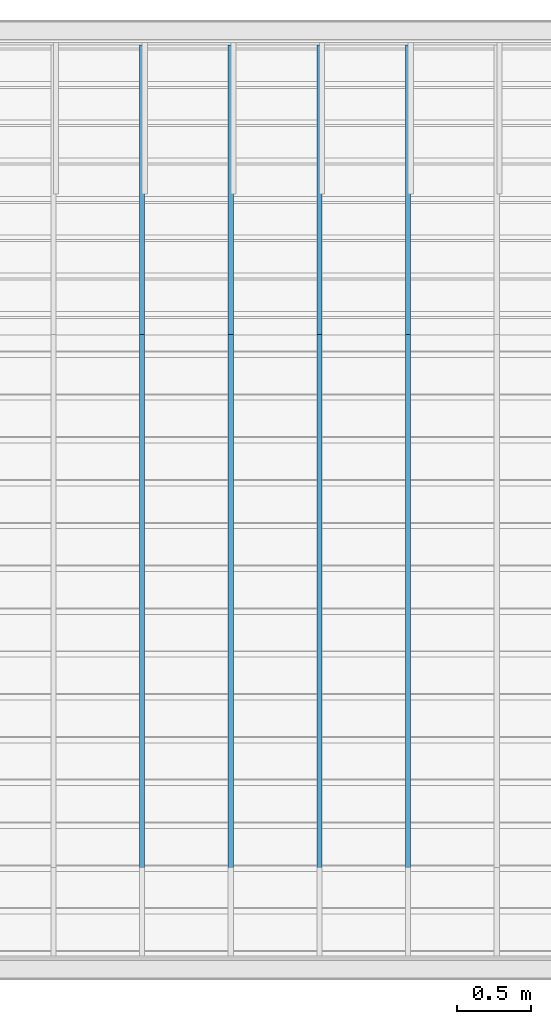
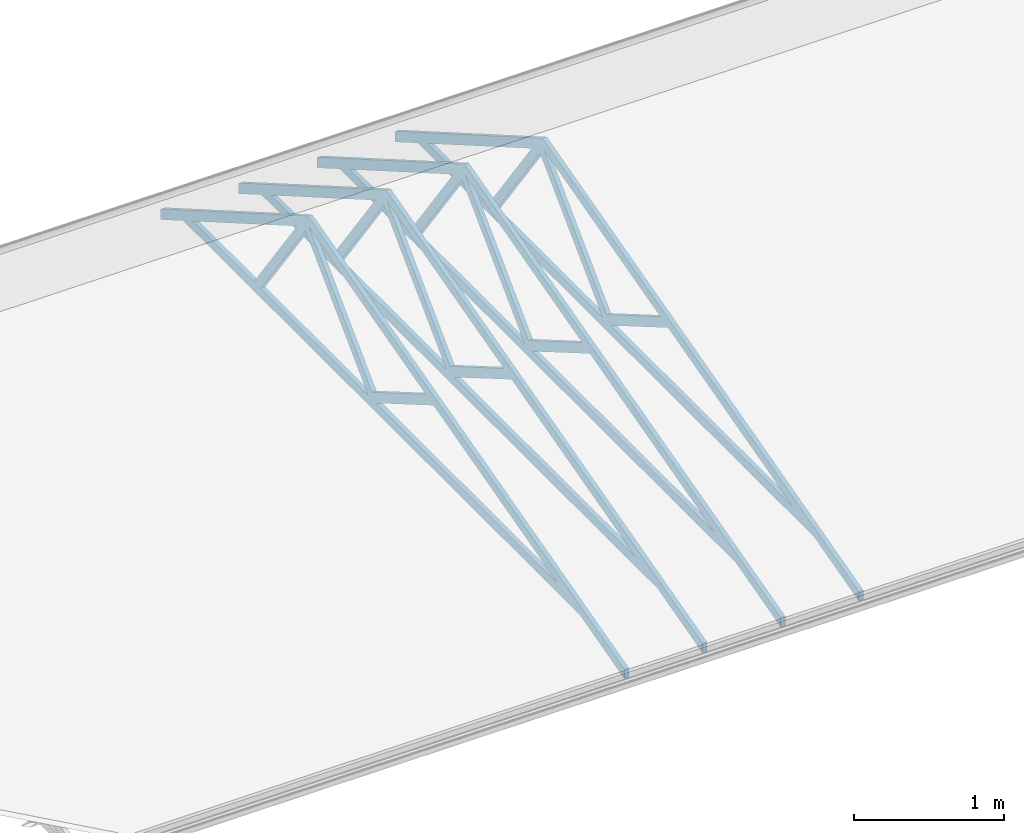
# One storey, part 6 of 12: 4 slabs.
"""IFC2X3 building model written with IfcOpenShell, lengths in millimetres."""

from ifc_helpers import new_model, entity, si_unit, converted_unit, money_unit, direction, frame, origin_with_axes, place, context, subcontext, project, spatial, faceted_brep, material, type_object, element, save


model = new_model("IFC2X3")

# Units and contexts
model_context = context("Model", 3, precision=1e-05, world=origin_with_axes(), true_north=direction((0.0, 1.0)))
body_context = subcontext(model_context, "Body", "Model", "MODEL_VIEW")
ifc_project = project(units=[si_unit("LENGTHUNIT", "METRE", prefix="MILLI"), si_unit("AREAUNIT", "SQUARE_METRE"), si_unit("VOLUMEUNIT", "CUBIC_METRE"), converted_unit("PLANEANGLEUNIT", "DEGREE", entity("IfcPlaneAngleMeasure", 0.0174532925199), si_unit("PLANEANGLEUNIT", "RADIAN"), dimensions=[0, 0, 0, 0, 0, 0, 0]), si_unit("SOLIDANGLEUNIT", "STERADIAN"), money_unit("AUD"), si_unit("TIMEUNIT", "SECOND"), si_unit("MASSUNIT", "GRAM"), si_unit("THERMODYNAMICTEMPERATUREUNIT", "DEGREE_CELSIUS"), si_unit("LUMINOUSINTENSITYUNIT", "LUMEN")], contexts=[model_context])

# Site, building, storey
site_placement = place(None, origin_with_axes())
site = spatial("IfcSite", under=ifc_project, at=site_placement, Name="Lot 1. East Hills", CompositionType="ELEMENT")
building_placement = place(site_placement, origin_with_axes())
building = spatial("IfcBuilding", under=site, at=building_placement, Name="Proposed Units 7 & 8", CompositionType="ELEMENT")
storey_placement = place(building_placement, frame((0.0, 0.0, 8395.0), z_axis=(0.0, 0.0, 1.0), x_axis=(1.0, 0.0, 0.0)))
storey = spatial("IfcBuildingStorey", under=building, at=storey_placement, Name="Roof", CompositionType="ELEMENT", Elevation=8395.0)

# Slabs
ifc_material = material(Name="50 %")
slab_type = type_object("IfcSlabType", Name="Roof Trust large", PredefinedType="NOTDEFINED")
slab_1_placement = place(storey_placement, frame((10955.0, -3.11548540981, 0.0), z_axis=(0.0, 0.0, 1.0), x_axis=(-1.0, 0.0, 0.0)))
element("IfcSlab", 1, at=slab_1_placement, inside=storey, type_object=slab_type, material=ifc_material, Name="TRUST_09 - Roof Trust large - object -", PredefinedType="ROOF", context=body_context, shape_type="Brep", body=[
    faceted_brep([(0.0, 600.020035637, -160.773638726), (0.0, 600.020035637, -160.673638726), (35.0, 600.020035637, -160.673638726), (35.0, 600.020035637, -160.773638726), (0.0, 599.923443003, -160.747757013), (0.0, 0.0966282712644, -0.0259204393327), (0.0, 3.56373446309e-05, -3.87262417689e-05), (0.0, -0.0999643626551, -3.87262417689e-05), (0.0, -5264.89996436, -3.87262399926e-05), (0.0, -5264.99996436, -3.87262399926e-05), (0.0, -5265.08656691, -0.050038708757), (0.0, -5564.91336181, -173.155038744), (0.0, -5564.99996436, -173.205038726), (0.0, -5564.99996436, -173.105038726), (0.0, -5564.99996436, -86.7025387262), (0.0, -5564.99996436, -86.6025387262), (0.0, -5564.91336181, -86.552538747), (0.0, -3606.74656692, 1043.99496129), (0.0, -3606.65996436, 1044.04496127), (0.0, -3606.56337176, 1044.01907945), (0.0, 599.923443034, -83.102056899), (0.0, 600.020035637, -83.1279387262), (0.0, 600.020035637, -83.2279387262), (0.0, -279.899964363, 74.9999612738), (0.0, -279.996556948, 75.0258431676), (0.0, -1937.88337178, 519.25507938), (0.0, -1937.97996436, 519.280961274), (0.0, -1938.06635104, 519.230589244), (0.0, -2699.82357768, 75.0503333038), (0.0, -2699.90996436, 74.9999612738), (0.0, -2699.80996436, 74.9999612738), (0.0, -279.999964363, 74.9999612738), (0.0, -2039.93996436, 546.601961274), (0.0, -2040.03655692, 546.627843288), (0.0, -3595.96337181, 963.539079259), (0.0, -3596.05996436, 963.564961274), (0.0, -3595.98895391, 963.494551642), (0.0, -2755.09097481, 129.711370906), (0.0, -2755.01996436, 129.640961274), (0.0, -2754.93357759, 129.691333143), (0.0, -2040.02635114, 546.551589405), (0.0, -2806.42996436, 74.9999612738), (0.0, -2806.50097476, 75.0703709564), (0.0, -3640.32895396, 901.844551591), (0.0, -3640.39996436, 901.914961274), (0.0, -3640.45835547, 901.833779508), (0.0, -4235.11157326, 75.0811430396), (0.0, -4235.16996436, 74.9999612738), (0.0, -4235.06996436, 74.9999612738), (0.0, -2806.52996436, 74.9999612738), (0.0, -3751.98996436, 873.534961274), (0.0, -3752.07656695, 873.48496135), (0.0, -5135.00936178, 75.0499611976), (0.0, -5135.09596436, 74.9999612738), (0.0, -5134.99596436, 74.9999612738), (0.0, -4326.44996436, 74.9999612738), (0.0, -4326.34996436, 74.9999612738), (0.0, -4326.29157308, 75.0811429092), (0.0, -3752.04835565, 873.453779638), (35.0, 600.020035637, -83.2279387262), (35.0, 600.020035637, -83.1279387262), (35.0, 599.923443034, -83.102056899), (35.0, -3606.56337176, 1044.01907945), (35.0, -3606.65996436, 1044.04496127), (35.0, -3606.74656692, 1043.99496129), (35.0, -5564.91336181, -86.552538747), (35.0, -5564.99996436, -86.6025387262), (35.0, -5564.99996436, -86.7025387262), (35.0, -5564.99996436, -173.105038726), (35.0, -5564.99996436, -173.205038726), (35.0, -5564.91336181, -173.155038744), (35.0, -5265.08656691, -0.050038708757), (35.0, -5264.99996436, -3.87262399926e-05), (35.0, -5264.89996436, -3.87262399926e-05), (35.0, -0.0999643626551, -3.87262417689e-05), (35.0, 3.56373446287e-05, -3.87262417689e-05), (35.0, 0.0966282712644, -0.0259204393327), (35.0, 599.923443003, -160.747757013), (35.0, -279.899964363, 74.9999612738), (35.0, -279.999964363, 74.9999612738), (35.0, -2699.80996436, 74.9999612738), (35.0, -2699.90996436, 74.9999612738), (35.0, -2699.82357768, 75.0503333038), (35.0, -1938.06635104, 519.230589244), (35.0, -1937.97996436, 519.280961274), (35.0, -1937.88337178, 519.25507938), (35.0, -279.996556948, 75.0258431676), (35.0, -2039.93996436, 546.601961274), (35.0, -2040.02635114, 546.551589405), (35.0, -2754.93357759, 129.691333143), (35.0, -2755.01996436, 129.640961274), (35.0, -2755.09097481, 129.711370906), (35.0, -3595.98895391, 963.494551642), (35.0, -3596.05996436, 963.564961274), (35.0, -3595.96337181, 963.539079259), (35.0, -2040.03655692, 546.627843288), (35.0, -2806.42996436, 74.9999612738), (35.0, -2806.52996436, 74.9999612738), (35.0, -4235.06996436, 74.9999612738), (35.0, -4235.16996436, 74.9999612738), (35.0, -4235.11157326, 75.0811430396), (35.0, -3640.45835547, 901.833779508), (35.0, -3640.39996436, 901.914961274), (35.0, -3640.32895396, 901.844551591), (35.0, -2806.50097476, 75.0703709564), (35.0, -3751.98996436, 873.534961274), (35.0, -3752.04835565, 873.453779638), (35.0, -4326.29157308, 75.0811429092), (35.0, -4326.34996436, 74.9999612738), (35.0, -4326.44996436, 74.9999612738), (35.0, -5134.99596436, 74.9999612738), (35.0, -5135.09596436, 74.9999612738), (35.0, -5135.00936178, 75.0499611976), (35.0, -3752.07656695, 873.48496135)], [[[0, 1, 2, 3]], [[0, 4, 5, 6, 7, 8, 9, 10, 11, 12, 13, 14, 15, 16, 17, 18, 19, 20, 21, 22, 1], [23, 24, 25, 26, 27, 28, 29, 30, 31], [32, 33, 34, 35, 36, 37, 38, 39, 40], [41, 42, 43, 44, 45, 46, 47, 48, 49], [50, 51, 52, 53, 54, 55, 56, 57, 58]], [[1, 22, 59, 2]], [[3, 2, 59, 60, 61, 62, 63, 64, 65, 66, 67, 68, 69, 70, 71, 72, 73, 74, 75, 76, 77], [78, 79, 80, 81, 82, 83, 84, 85, 86], [87, 88, 89, 90, 91, 92, 93, 94, 95], [96, 97, 98, 99, 100, 101, 102, 103, 104], [105, 106, 107, 108, 109, 110, 111, 112, 113]], [[4, 0, 3, 77]], [[5, 4, 77, 76]], [[6, 5, 76, 75]], [[7, 6, 75, 74]], [[8, 7, 74, 73]], [[9, 8, 73, 72]], [[10, 9, 72, 71]], [[11, 10, 71, 70]], [[12, 11, 70, 69]], [[13, 12, 69, 68]], [[14, 13, 68, 67]], [[15, 14, 67, 66]], [[16, 15, 66, 65]], [[17, 16, 65, 64]], [[18, 17, 64, 63]], [[19, 18, 63, 62]], [[20, 19, 62, 61]], [[21, 20, 61, 60]], [[22, 21, 60, 59]], [[24, 23, 78, 86]], [[25, 24, 86, 85]], [[26, 25, 85, 84]], [[27, 26, 84, 83]], [[28, 27, 83, 82]], [[29, 28, 82, 81]], [[30, 29, 81, 80]], [[31, 30, 80, 79]], [[23, 31, 79, 78]], [[33, 32, 87, 95]], [[34, 33, 95, 94]], [[35, 34, 94, 93]], [[36, 35, 93, 92]], [[37, 36, 92, 91]], [[38, 37, 91, 90]], [[39, 38, 90, 89]], [[40, 39, 89, 88]], [[32, 40, 88, 87]], [[42, 41, 96, 104]], [[43, 42, 104, 103]], [[44, 43, 103, 102]], [[45, 44, 102, 101]], [[46, 45, 101, 100]], [[47, 46, 100, 99]], [[48, 47, 99, 98]], [[49, 48, 98, 97]], [[41, 49, 97, 96]], [[51, 50, 105, 113]], [[52, 51, 113, 112]], [[53, 52, 112, 111]], [[54, 53, 111, 110]], [[55, 54, 110, 109]], [[56, 55, 109, 108]], [[57, 56, 108, 107]], [[58, 57, 107, 106]], [[50, 58, 106, 105]]]),
])
slab_2_placement = place(storey_placement, frame((10355.0, -3.11548540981, 0.0), z_axis=(0.0, 0.0, 1.0), x_axis=(-1.0, 0.0, 0.0)))
element("IfcSlab", 2, at=slab_2_placement, inside=storey, type_object=slab_type, material=ifc_material, Name="TRUST_10 - Roof Trust large - object -", PredefinedType="ROOF", context=body_context, shape_type="Brep", body=[
    faceted_brep([(0.0, 600.020035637, -160.773638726), (0.0, 600.020035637, -160.673638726), (35.0, 600.020035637, -160.673638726), (35.0, 600.020035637, -160.773638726), (0.0, 599.923443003, -160.747757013), (0.0, 0.0966282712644, -0.0259204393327), (0.0, 3.56373446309e-05, -3.87262417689e-05), (0.0, -0.0999643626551, -3.87262417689e-05), (0.0, -5264.89996436, -3.87262399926e-05), (0.0, -5264.99996436, -3.87262399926e-05), (0.0, -5265.08656691, -0.050038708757), (0.0, -5564.91336181, -173.155038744), (0.0, -5564.99996436, -173.205038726), (0.0, -5564.99996436, -173.105038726), (0.0, -5564.99996436, -86.7025387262), (0.0, -5564.99996436, -86.6025387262), (0.0, -5564.91336181, -86.552538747), (0.0, -3606.74656692, 1043.99496129), (0.0, -3606.65996436, 1044.04496127), (0.0, -3606.56337176, 1044.01907945), (0.0, 599.923443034, -83.102056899), (0.0, 600.020035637, -83.1279387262), (0.0, 600.020035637, -83.2279387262), (0.0, -279.899964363, 74.9999612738), (0.0, -279.996556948, 75.0258431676), (0.0, -1937.88337178, 519.25507938), (0.0, -1937.97996436, 519.280961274), (0.0, -1938.06635104, 519.230589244), (0.0, -2699.82357768, 75.0503333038), (0.0, -2699.90996436, 74.9999612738), (0.0, -2699.80996436, 74.9999612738), (0.0, -279.999964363, 74.9999612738), (0.0, -2039.93996436, 546.601961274), (0.0, -2040.03655692, 546.627843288), (0.0, -3595.96337181, 963.539079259), (0.0, -3596.05996436, 963.564961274), (0.0, -3595.98895391, 963.494551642), (0.0, -2755.09097481, 129.711370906), (0.0, -2755.01996436, 129.640961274), (0.0, -2754.93357759, 129.691333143), (0.0, -2040.02635114, 546.551589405), (0.0, -2806.42996436, 74.9999612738), (0.0, -2806.50097476, 75.0703709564), (0.0, -3640.32895396, 901.844551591), (0.0, -3640.39996436, 901.914961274), (0.0, -3640.45835547, 901.833779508), (0.0, -4235.11157326, 75.0811430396), (0.0, -4235.16996436, 74.9999612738), (0.0, -4235.06996436, 74.9999612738), (0.0, -2806.52996436, 74.9999612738), (0.0, -3751.98996436, 873.534961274), (0.0, -3752.07656695, 873.48496135), (0.0, -5135.00936178, 75.0499611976), (0.0, -5135.09596436, 74.9999612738), (0.0, -5134.99596436, 74.9999612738), (0.0, -4326.44996436, 74.9999612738), (0.0, -4326.34996436, 74.9999612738), (0.0, -4326.29157308, 75.0811429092), (0.0, -3752.04835565, 873.453779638), (35.0, 600.020035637, -83.2279387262), (35.0, 600.020035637, -83.1279387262), (35.0, 599.923443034, -83.102056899), (35.0, -3606.56337176, 1044.01907945), (35.0, -3606.65996436, 1044.04496127), (35.0, -3606.74656692, 1043.99496129), (35.0, -5564.91336181, -86.552538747), (35.0, -5564.99996436, -86.6025387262), (35.0, -5564.99996436, -86.7025387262), (35.0, -5564.99996436, -173.105038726), (35.0, -5564.99996436, -173.205038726), (35.0, -5564.91336181, -173.155038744), (35.0, -5265.08656691, -0.050038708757), (35.0, -5264.99996436, -3.87262399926e-05), (35.0, -5264.89996436, -3.87262399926e-05), (35.0, -0.0999643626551, -3.87262417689e-05), (35.0, 3.56373446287e-05, -3.87262417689e-05), (35.0, 0.0966282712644, -0.0259204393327), (35.0, 599.923443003, -160.747757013), (35.0, -279.899964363, 74.9999612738), (35.0, -279.999964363, 74.9999612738), (35.0, -2699.80996436, 74.9999612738), (35.0, -2699.90996436, 74.9999612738), (35.0, -2699.82357768, 75.0503333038), (35.0, -1938.06635104, 519.230589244), (35.0, -1937.97996436, 519.280961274), (35.0, -1937.88337178, 519.25507938), (35.0, -279.996556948, 75.0258431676), (35.0, -2039.93996436, 546.601961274), (35.0, -2040.02635114, 546.551589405), (35.0, -2754.93357759, 129.691333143), (35.0, -2755.01996436, 129.640961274), (35.0, -2755.09097481, 129.711370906), (35.0, -3595.98895391, 963.494551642), (35.0, -3596.05996436, 963.564961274), (35.0, -3595.96337181, 963.539079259), (35.0, -2040.03655692, 546.627843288), (35.0, -2806.42996436, 74.9999612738), (35.0, -2806.52996436, 74.9999612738), (35.0, -4235.06996436, 74.9999612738), (35.0, -4235.16996436, 74.9999612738), (35.0, -4235.11157326, 75.0811430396), (35.0, -3640.45835547, 901.833779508), (35.0, -3640.39996436, 901.914961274), (35.0, -3640.32895396, 901.844551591), (35.0, -2806.50097476, 75.0703709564), (35.0, -3751.98996436, 873.534961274), (35.0, -3752.04835565, 873.453779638), (35.0, -4326.29157308, 75.0811429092), (35.0, -4326.34996436, 74.9999612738), (35.0, -4326.44996436, 74.9999612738), (35.0, -5134.99596436, 74.9999612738), (35.0, -5135.09596436, 74.9999612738), (35.0, -5135.00936178, 75.0499611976), (35.0, -3752.07656695, 873.48496135)], [[[0, 1, 2, 3]], [[0, 4, 5, 6, 7, 8, 9, 10, 11, 12, 13, 14, 15, 16, 17, 18, 19, 20, 21, 22, 1], [23, 24, 25, 26, 27, 28, 29, 30, 31], [32, 33, 34, 35, 36, 37, 38, 39, 40], [41, 42, 43, 44, 45, 46, 47, 48, 49], [50, 51, 52, 53, 54, 55, 56, 57, 58]], [[1, 22, 59, 2]], [[3, 2, 59, 60, 61, 62, 63, 64, 65, 66, 67, 68, 69, 70, 71, 72, 73, 74, 75, 76, 77], [78, 79, 80, 81, 82, 83, 84, 85, 86], [87, 88, 89, 90, 91, 92, 93, 94, 95], [96, 97, 98, 99, 100, 101, 102, 103, 104], [105, 106, 107, 108, 109, 110, 111, 112, 113]], [[4, 0, 3, 77]], [[5, 4, 77, 76]], [[6, 5, 76, 75]], [[7, 6, 75, 74]], [[8, 7, 74, 73]], [[9, 8, 73, 72]], [[10, 9, 72, 71]], [[11, 10, 71, 70]], [[12, 11, 70, 69]], [[13, 12, 69, 68]], [[14, 13, 68, 67]], [[15, 14, 67, 66]], [[16, 15, 66, 65]], [[17, 16, 65, 64]], [[18, 17, 64, 63]], [[19, 18, 63, 62]], [[20, 19, 62, 61]], [[21, 20, 61, 60]], [[22, 21, 60, 59]], [[24, 23, 78, 86]], [[25, 24, 86, 85]], [[26, 25, 85, 84]], [[27, 26, 84, 83]], [[28, 27, 83, 82]], [[29, 28, 82, 81]], [[30, 29, 81, 80]], [[31, 30, 80, 79]], [[23, 31, 79, 78]], [[33, 32, 87, 95]], [[34, 33, 95, 94]], [[35, 34, 94, 93]], [[36, 35, 93, 92]], [[37, 36, 92, 91]], [[38, 37, 91, 90]], [[39, 38, 90, 89]], [[40, 39, 89, 88]], [[32, 40, 88, 87]], [[42, 41, 96, 104]], [[43, 42, 104, 103]], [[44, 43, 103, 102]], [[45, 44, 102, 101]], [[46, 45, 101, 100]], [[47, 46, 100, 99]], [[48, 47, 99, 98]], [[49, 48, 98, 97]], [[41, 49, 97, 96]], [[51, 50, 105, 113]], [[52, 51, 113, 112]], [[53, 52, 112, 111]], [[54, 53, 111, 110]], [[55, 54, 110, 109]], [[56, 55, 109, 108]], [[57, 56, 108, 107]], [[58, 57, 107, 106]], [[50, 58, 106, 105]]]),
])
slab_3_placement = place(storey_placement, frame((9755.0, -3.11548540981, 0.0), z_axis=(0.0, 0.0, 1.0), x_axis=(-1.0, 0.0, 0.0)))
element("IfcSlab", 3, at=slab_3_placement, inside=storey, type_object=slab_type, material=ifc_material, Name="TRUST_11 - Roof Trust large - object -", PredefinedType="ROOF", context=body_context, shape_type="Brep", body=[
    faceted_brep([(0.0, 600.020035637, -160.773638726), (0.0, 600.020035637, -160.673638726), (35.0, 600.020035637, -160.673638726), (35.0, 600.020035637, -160.773638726), (0.0, 599.923443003, -160.747757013), (0.0, 0.0966282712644, -0.0259204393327), (0.0, 3.56373446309e-05, -3.87262417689e-05), (0.0, -0.0999643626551, -3.87262417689e-05), (0.0, -5264.89996436, -3.87262399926e-05), (0.0, -5264.99996436, -3.87262399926e-05), (0.0, -5265.08656691, -0.050038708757), (0.0, -5564.91336181, -173.155038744), (0.0, -5564.99996436, -173.205038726), (0.0, -5564.99996436, -173.105038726), (0.0, -5564.99996436, -86.7025387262), (0.0, -5564.99996436, -86.6025387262), (0.0, -5564.91336181, -86.552538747), (0.0, -3606.74656692, 1043.99496129), (0.0, -3606.65996436, 1044.04496127), (0.0, -3606.56337176, 1044.01907945), (0.0, 599.923443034, -83.102056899), (0.0, 600.020035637, -83.1279387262), (0.0, 600.020035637, -83.2279387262), (0.0, -279.899964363, 74.9999612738), (0.0, -279.996556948, 75.0258431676), (0.0, -1937.88337178, 519.25507938), (0.0, -1937.97996436, 519.280961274), (0.0, -1938.06635104, 519.230589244), (0.0, -2699.82357768, 75.0503333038), (0.0, -2699.90996436, 74.9999612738), (0.0, -2699.80996436, 74.9999612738), (0.0, -279.999964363, 74.9999612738), (0.0, -2039.93996436, 546.601961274), (0.0, -2040.03655692, 546.627843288), (0.0, -3595.96337181, 963.539079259), (0.0, -3596.05996436, 963.564961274), (0.0, -3595.98895391, 963.494551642), (0.0, -2755.09097481, 129.711370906), (0.0, -2755.01996436, 129.640961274), (0.0, -2754.93357759, 129.691333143), (0.0, -2040.02635114, 546.551589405), (0.0, -2806.42996436, 74.9999612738), (0.0, -2806.50097476, 75.0703709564), (0.0, -3640.32895396, 901.844551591), (0.0, -3640.39996436, 901.914961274), (0.0, -3640.45835547, 901.833779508), (0.0, -4235.11157326, 75.0811430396), (0.0, -4235.16996436, 74.9999612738), (0.0, -4235.06996436, 74.9999612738), (0.0, -2806.52996436, 74.9999612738), (0.0, -3751.98996436, 873.534961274), (0.0, -3752.07656695, 873.48496135), (0.0, -5135.00936178, 75.0499611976), (0.0, -5135.09596436, 74.9999612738), (0.0, -5134.99596436, 74.9999612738), (0.0, -4326.44996436, 74.9999612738), (0.0, -4326.34996436, 74.9999612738), (0.0, -4326.29157308, 75.0811429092), (0.0, -3752.04835565, 873.453779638), (35.0, 600.020035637, -83.2279387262), (35.0, 600.020035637, -83.1279387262), (35.0, 599.923443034, -83.102056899), (35.0, -3606.56337176, 1044.01907945), (35.0, -3606.65996436, 1044.04496127), (35.0, -3606.74656692, 1043.99496129), (35.0, -5564.91336181, -86.552538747), (35.0, -5564.99996436, -86.6025387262), (35.0, -5564.99996436, -86.7025387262), (35.0, -5564.99996436, -173.105038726), (35.0, -5564.99996436, -173.205038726), (35.0, -5564.91336181, -173.155038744), (35.0, -5265.08656691, -0.050038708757), (35.0, -5264.99996436, -3.87262399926e-05), (35.0, -5264.89996436, -3.87262399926e-05), (35.0, -0.0999643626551, -3.87262417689e-05), (35.0, 3.56373446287e-05, -3.87262417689e-05), (35.0, 0.0966282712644, -0.0259204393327), (35.0, 599.923443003, -160.747757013), (35.0, -279.899964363, 74.9999612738), (35.0, -279.999964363, 74.9999612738), (35.0, -2699.80996436, 74.9999612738), (35.0, -2699.90996436, 74.9999612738), (35.0, -2699.82357768, 75.0503333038), (35.0, -1938.06635104, 519.230589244), (35.0, -1937.97996436, 519.280961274), (35.0, -1937.88337178, 519.25507938), (35.0, -279.996556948, 75.0258431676), (35.0, -2039.93996436, 546.601961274), (35.0, -2040.02635114, 546.551589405), (35.0, -2754.93357759, 129.691333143), (35.0, -2755.01996436, 129.640961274), (35.0, -2755.09097481, 129.711370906), (35.0, -3595.98895391, 963.494551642), (35.0, -3596.05996436, 963.564961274), (35.0, -3595.96337181, 963.539079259), (35.0, -2040.03655692, 546.627843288), (35.0, -2806.42996436, 74.9999612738), (35.0, -2806.52996436, 74.9999612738), (35.0, -4235.06996436, 74.9999612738), (35.0, -4235.16996436, 74.9999612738), (35.0, -4235.11157326, 75.0811430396), (35.0, -3640.45835547, 901.833779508), (35.0, -3640.39996436, 901.914961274), (35.0, -3640.32895396, 901.844551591), (35.0, -2806.50097476, 75.0703709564), (35.0, -3751.98996436, 873.534961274), (35.0, -3752.04835565, 873.453779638), (35.0, -4326.29157308, 75.0811429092), (35.0, -4326.34996436, 74.9999612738), (35.0, -4326.44996436, 74.9999612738), (35.0, -5134.99596436, 74.9999612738), (35.0, -5135.09596436, 74.9999612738), (35.0, -5135.00936178, 75.0499611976), (35.0, -3752.07656695, 873.48496135)], [[[0, 1, 2, 3]], [[0, 4, 5, 6, 7, 8, 9, 10, 11, 12, 13, 14, 15, 16, 17, 18, 19, 20, 21, 22, 1], [23, 24, 25, 26, 27, 28, 29, 30, 31], [32, 33, 34, 35, 36, 37, 38, 39, 40], [41, 42, 43, 44, 45, 46, 47, 48, 49], [50, 51, 52, 53, 54, 55, 56, 57, 58]], [[1, 22, 59, 2]], [[3, 2, 59, 60, 61, 62, 63, 64, 65, 66, 67, 68, 69, 70, 71, 72, 73, 74, 75, 76, 77], [78, 79, 80, 81, 82, 83, 84, 85, 86], [87, 88, 89, 90, 91, 92, 93, 94, 95], [96, 97, 98, 99, 100, 101, 102, 103, 104], [105, 106, 107, 108, 109, 110, 111, 112, 113]], [[4, 0, 3, 77]], [[5, 4, 77, 76]], [[6, 5, 76, 75]], [[7, 6, 75, 74]], [[8, 7, 74, 73]], [[9, 8, 73, 72]], [[10, 9, 72, 71]], [[11, 10, 71, 70]], [[12, 11, 70, 69]], [[13, 12, 69, 68]], [[14, 13, 68, 67]], [[15, 14, 67, 66]], [[16, 15, 66, 65]], [[17, 16, 65, 64]], [[18, 17, 64, 63]], [[19, 18, 63, 62]], [[20, 19, 62, 61]], [[21, 20, 61, 60]], [[22, 21, 60, 59]], [[24, 23, 78, 86]], [[25, 24, 86, 85]], [[26, 25, 85, 84]], [[27, 26, 84, 83]], [[28, 27, 83, 82]], [[29, 28, 82, 81]], [[30, 29, 81, 80]], [[31, 30, 80, 79]], [[23, 31, 79, 78]], [[33, 32, 87, 95]], [[34, 33, 95, 94]], [[35, 34, 94, 93]], [[36, 35, 93, 92]], [[37, 36, 92, 91]], [[38, 37, 91, 90]], [[39, 38, 90, 89]], [[40, 39, 89, 88]], [[32, 40, 88, 87]], [[42, 41, 96, 104]], [[43, 42, 104, 103]], [[44, 43, 103, 102]], [[45, 44, 102, 101]], [[46, 45, 101, 100]], [[47, 46, 100, 99]], [[48, 47, 99, 98]], [[49, 48, 98, 97]], [[41, 49, 97, 96]], [[51, 50, 105, 113]], [[52, 51, 113, 112]], [[53, 52, 112, 111]], [[54, 53, 111, 110]], [[55, 54, 110, 109]], [[56, 55, 109, 108]], [[57, 56, 108, 107]], [[58, 57, 107, 106]], [[50, 58, 106, 105]]]),
])
slab_4_placement = place(storey_placement, frame((9155.0, -3.11548540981, 0.0), z_axis=(0.0, 0.0, 1.0), x_axis=(-1.0, 0.0, 0.0)))
element("IfcSlab", 4, at=slab_4_placement, inside=storey, type_object=slab_type, material=ifc_material, Name="TRUST_12 - Roof Trust large - object -", PredefinedType="ROOF", context=body_context, shape_type="Brep", body=[
    faceted_brep([(0.0, 600.020035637, -160.773638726), (0.0, 600.020035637, -160.673638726), (35.0, 600.020035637, -160.673638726), (35.0, 600.020035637, -160.773638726), (0.0, 599.923443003, -160.747757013), (0.0, 0.0966282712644, -0.0259204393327), (0.0, 3.56373446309e-05, -3.87262417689e-05), (0.0, -0.0999643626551, -3.87262417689e-05), (0.0, -5264.89996436, -3.87262399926e-05), (0.0, -5264.99996436, -3.87262399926e-05), (0.0, -5265.08656691, -0.050038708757), (0.0, -5564.91336181, -173.155038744), (0.0, -5564.99996436, -173.205038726), (0.0, -5564.99996436, -173.105038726), (0.0, -5564.99996436, -86.7025387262), (0.0, -5564.99996436, -86.6025387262), (0.0, -5564.91336181, -86.552538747), (0.0, -3606.74656692, 1043.99496129), (0.0, -3606.65996436, 1044.04496127), (0.0, -3606.56337176, 1044.01907945), (0.0, 599.923443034, -83.102056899), (0.0, 600.020035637, -83.1279387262), (0.0, 600.020035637, -83.2279387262), (0.0, -279.899964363, 74.9999612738), (0.0, -279.996556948, 75.0258431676), (0.0, -1937.88337178, 519.25507938), (0.0, -1937.97996436, 519.280961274), (0.0, -1938.06635104, 519.230589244), (0.0, -2699.82357768, 75.0503333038), (0.0, -2699.90996436, 74.9999612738), (0.0, -2699.80996436, 74.9999612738), (0.0, -279.999964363, 74.9999612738), (0.0, -2039.93996436, 546.601961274), (0.0, -2040.03655692, 546.627843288), (0.0, -3595.96337181, 963.539079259), (0.0, -3596.05996436, 963.564961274), (0.0, -3595.98895391, 963.494551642), (0.0, -2755.09097481, 129.711370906), (0.0, -2755.01996436, 129.640961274), (0.0, -2754.93357759, 129.691333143), (0.0, -2040.02635114, 546.551589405), (0.0, -2806.42996436, 74.9999612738), (0.0, -2806.50097476, 75.0703709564), (0.0, -3640.32895396, 901.844551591), (0.0, -3640.39996436, 901.914961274), (0.0, -3640.45835547, 901.833779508), (0.0, -4235.11157326, 75.0811430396), (0.0, -4235.16996436, 74.9999612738), (0.0, -4235.06996436, 74.9999612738), (0.0, -2806.52996436, 74.9999612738), (0.0, -3751.98996436, 873.534961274), (0.0, -3752.07656695, 873.48496135), (0.0, -5135.00936178, 75.0499611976), (0.0, -5135.09596436, 74.9999612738), (0.0, -5134.99596436, 74.9999612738), (0.0, -4326.44996436, 74.9999612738), (0.0, -4326.34996436, 74.9999612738), (0.0, -4326.29157308, 75.0811429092), (0.0, -3752.04835565, 873.453779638), (35.0, 600.020035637, -83.2279387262), (35.0, 600.020035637, -83.1279387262), (35.0, 599.923443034, -83.102056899), (35.0, -3606.56337176, 1044.01907945), (35.0, -3606.65996436, 1044.04496127), (35.0, -3606.74656692, 1043.99496129), (35.0, -5564.91336181, -86.552538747), (35.0, -5564.99996436, -86.6025387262), (35.0, -5564.99996436, -86.7025387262), (35.0, -5564.99996436, -173.105038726), (35.0, -5564.99996436, -173.205038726), (35.0, -5564.91336181, -173.155038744), (35.0, -5265.08656691, -0.050038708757), (35.0, -5264.99996436, -3.87262399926e-05), (35.0, -5264.89996436, -3.87262399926e-05), (35.0, -0.0999643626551, -3.87262417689e-05), (35.0, 3.56373446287e-05, -3.87262417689e-05), (35.0, 0.0966282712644, -0.0259204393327), (35.0, 599.923443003, -160.747757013), (35.0, -279.899964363, 74.9999612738), (35.0, -279.999964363, 74.9999612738), (35.0, -2699.80996436, 74.9999612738), (35.0, -2699.90996436, 74.9999612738), (35.0, -2699.82357768, 75.0503333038), (35.0, -1938.06635104, 519.230589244), (35.0, -1937.97996436, 519.280961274), (35.0, -1937.88337178, 519.25507938), (35.0, -279.996556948, 75.0258431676), (35.0, -2039.93996436, 546.601961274), (35.0, -2040.02635114, 546.551589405), (35.0, -2754.93357759, 129.691333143), (35.0, -2755.01996436, 129.640961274), (35.0, -2755.09097481, 129.711370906), (35.0, -3595.98895391, 963.494551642), (35.0, -3596.05996436, 963.564961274), (35.0, -3595.96337181, 963.539079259), (35.0, -2040.03655692, 546.627843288), (35.0, -2806.42996436, 74.9999612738), (35.0, -2806.52996436, 74.9999612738), (35.0, -4235.06996436, 74.9999612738), (35.0, -4235.16996436, 74.9999612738), (35.0, -4235.11157326, 75.0811430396), (35.0, -3640.45835547, 901.833779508), (35.0, -3640.39996436, 901.914961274), (35.0, -3640.32895396, 901.844551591), (35.0, -2806.50097476, 75.0703709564), (35.0, -3751.98996436, 873.534961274), (35.0, -3752.04835565, 873.453779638), (35.0, -4326.29157308, 75.0811429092), (35.0, -4326.34996436, 74.9999612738), (35.0, -4326.44996436, 74.9999612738), (35.0, -5134.99596436, 74.9999612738), (35.0, -5135.09596436, 74.9999612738), (35.0, -5135.00936178, 75.0499611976), (35.0, -3752.07656695, 873.48496135)], [[[0, 1, 2, 3]], [[0, 4, 5, 6, 7, 8, 9, 10, 11, 12, 13, 14, 15, 16, 17, 18, 19, 20, 21, 22, 1], [23, 24, 25, 26, 27, 28, 29, 30, 31], [32, 33, 34, 35, 36, 37, 38, 39, 40], [41, 42, 43, 44, 45, 46, 47, 48, 49], [50, 51, 52, 53, 54, 55, 56, 57, 58]], [[1, 22, 59, 2]], [[3, 2, 59, 60, 61, 62, 63, 64, 65, 66, 67, 68, 69, 70, 71, 72, 73, 74, 75, 76, 77], [78, 79, 80, 81, 82, 83, 84, 85, 86], [87, 88, 89, 90, 91, 92, 93, 94, 95], [96, 97, 98, 99, 100, 101, 102, 103, 104], [105, 106, 107, 108, 109, 110, 111, 112, 113]], [[4, 0, 3, 77]], [[5, 4, 77, 76]], [[6, 5, 76, 75]], [[7, 6, 75, 74]], [[8, 7, 74, 73]], [[9, 8, 73, 72]], [[10, 9, 72, 71]], [[11, 10, 71, 70]], [[12, 11, 70, 69]], [[13, 12, 69, 68]], [[14, 13, 68, 67]], [[15, 14, 67, 66]], [[16, 15, 66, 65]], [[17, 16, 65, 64]], [[18, 17, 64, 63]], [[19, 18, 63, 62]], [[20, 19, 62, 61]], [[21, 20, 61, 60]], [[22, 21, 60, 59]], [[24, 23, 78, 86]], [[25, 24, 86, 85]], [[26, 25, 85, 84]], [[27, 26, 84, 83]], [[28, 27, 83, 82]], [[29, 28, 82, 81]], [[30, 29, 81, 80]], [[31, 30, 80, 79]], [[23, 31, 79, 78]], [[33, 32, 87, 95]], [[34, 33, 95, 94]], [[35, 34, 94, 93]], [[36, 35, 93, 92]], [[37, 36, 92, 91]], [[38, 37, 91, 90]], [[39, 38, 90, 89]], [[40, 39, 89, 88]], [[32, 40, 88, 87]], [[42, 41, 96, 104]], [[43, 42, 104, 103]], [[44, 43, 103, 102]], [[45, 44, 102, 101]], [[46, 45, 101, 100]], [[47, 46, 100, 99]], [[48, 47, 99, 98]], [[49, 48, 98, 97]], [[41, 49, 97, 96]], [[51, 50, 105, 113]], [[52, 51, 113, 112]], [[53, 52, 112, 111]], [[54, 53, 111, 110]], [[55, 54, 110, 109]], [[56, 55, 109, 108]], [[57, 56, 108, 107]], [[58, 57, 107, 106]], [[50, 58, 106, 105]]]),
])

save(model, "model.ifc")
